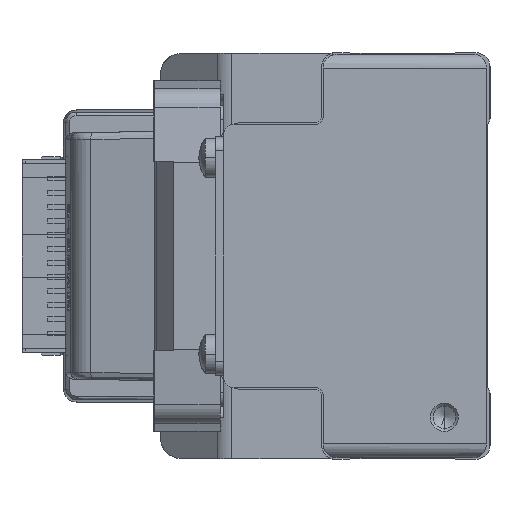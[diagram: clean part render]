
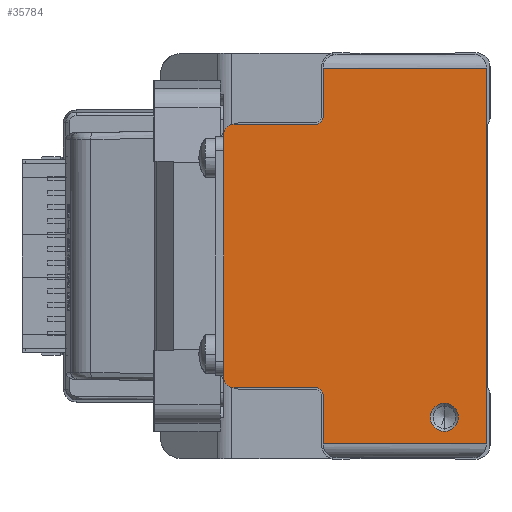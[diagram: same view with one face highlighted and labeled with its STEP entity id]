
A CAD part, left-side view. The second image highlights one B-rep face of the part: STEP entity #35784.
In plain terms, the highlighted planar face has unit normal (-1, 0, 0) as drawn and (0, 0, 1) by its records, which use the part's own axes.
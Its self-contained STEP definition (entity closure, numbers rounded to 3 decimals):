
#277 = PLANE ( 'NONE',  #14329 ) ;
#304 = CARTESIAN_POINT ( 'NONE',  ( -19.8, 23.8, 820. ) ) ;
#424 = CARTESIAN_POINT ( 'NONE',  ( -17.3, 38., 820. ) ) ;
#500 = CARTESIAN_POINT ( 'NONE',  ( -26.8, 23.8, 820. ) ) ;
#663 = EDGE_CURVE ( 'NONE', #10963, #27898, #27342, .T. ) ;
#1266 = VERTEX_POINT ( 'NONE', #20977 ) ;
#1407 = DIRECTION ( 'NONE',  ( -1., 0., 0. ) ) ;
#2642 = DIRECTION ( 'NONE',  ( 1., 0., 0. ) ) ;
#2876 = CIRCLE ( 'NONE', #8560, 2. ) ;
#3194 = VECTOR ( 'NONE', #41416, 1000. ) ;
#4542 = DIRECTION ( 'NONE',  ( 1., 0., 0. ) ) ;
#5581 = CARTESIAN_POINT ( 'NONE',  ( -21., 6.5, 820. ) ) ;
#5797 = CARTESIAN_POINT ( 'NONE',  ( 26.8, 0.5, 820. ) ) ;
#6415 = DIRECTION ( 'NONE',  ( 0., 0., 1. ) ) ;
#6756 = EDGE_LOOP ( 'NONE', ( #25013, #26502 ) ) ;
#6918 = CIRCLE ( 'NONE', #12657, 1. ) ;
#7649 = LINE ( 'NONE', #40967, #9709 ) ;
#7830 = VERTEX_POINT ( 'NONE', #5797 ) ;
#8187 = AXIS2_PLACEMENT_3D ( 'NONE', #10144, #13275, #23958 ) ;
#8194 = EDGE_CURVE ( 'NONE', #39193, #13332, #6918, .T. ) ;
#8560 = AXIS2_PLACEMENT_3D ( 'NONE', #15575, #15805, #16027 ) ;
#8866 = DIRECTION ( 'NONE',  ( 0., 0., -1. ) ) ;
#9217 = EDGE_CURVE ( 'NONE', #39193, #11218, #27636, .T. ) ;
#9709 = VECTOR ( 'NONE', #24634, 1000. ) ;
#9765 = DIRECTION ( 'NONE',  ( -1., 0., 0. ) ) ;
#10112 = ORIENTED_EDGE ( 'NONE', *, *, #22639, .F. ) ;
#10144 = CARTESIAN_POINT ( 'NONE',  ( 17.3, 36.5, 820. ) ) ;
#10381 = EDGE_CURVE ( 'NONE', #21844, #1266, #17497, .T. ) ;
#10467 = DIRECTION ( 'NONE',  ( 0., -1., 0. ) ) ;
#10723 = DIRECTION ( 'NONE',  ( 0., 0., 1. ) ) ;
#10888 = CARTESIAN_POINT ( 'NONE',  ( 18.8, 24.8, 820. ) ) ;
#10963 = VERTEX_POINT ( 'NONE', #17479 ) ;
#11218 = VERTEX_POINT ( 'NONE', #42957 ) ;
#12657 = AXIS2_PLACEMENT_3D ( 'NONE', #26755, #6415, #2642 ) ;
#12986 = ORIENTED_EDGE ( 'NONE', *, *, #14524, .T. ) ;
#13275 = DIRECTION ( 'NONE',  ( 0., 0., 1. ) ) ;
#13332 = VERTEX_POINT ( 'NONE', #36125 ) ;
#13474 = EDGE_LOOP ( 'NONE', ( #37100, #38413, #32048, #33374, #25268, #10112, #12986, #29792, #28179, #23756, #20392, #40860 ) ) ;
#14329 = AXIS2_PLACEMENT_3D ( 'NONE', #34450, #35096, #4542 ) ;
#14417 = VECTOR ( 'NONE', #36926, 1000. ) ;
#14524 = EDGE_CURVE ( 'NONE', #30838, #13332, #24430, .T. ) ;
#14875 = AXIS2_PLACEMENT_3D ( 'NONE', #39428, #32275, #15092 ) ;
#15092 = DIRECTION ( 'NONE',  ( 1., 0., 0. ) ) ;
#15575 = CARTESIAN_POINT ( 'NONE',  ( -23., 6.5, 820. ) ) ;
#15622 = LINE ( 'NONE', #26155, #18392 ) ;
#15805 = DIRECTION ( 'NONE',  ( 0., 0., -1. ) ) ;
#16027 = DIRECTION ( 'NONE',  ( -1., 0., 0. ) ) ;
#16982 = EDGE_CURVE ( 'NONE', #10963, #43594, #22694, .T. ) ;
#17235 = FACE_BOUND ( 'NONE', #6756, .T. ) ;
#17345 = DIRECTION ( 'NONE',  ( 0., 1., 0. ) ) ;
#17413 = CARTESIAN_POINT ( 'NONE',  ( -17.3, 36.5, 820. ) ) ;
#17479 = CARTESIAN_POINT ( 'NONE',  ( -19.8, 23.8, 820. ) ) ;
#17497 = CIRCLE ( 'NONE', #38908, 1.5 ) ;
#18072 = CARTESIAN_POINT ( 'NONE',  ( -25., 6.5, 820. ) ) ;
#18217 = VERTEX_POINT ( 'NONE', #18072 ) ;
#18392 = VECTOR ( 'NONE', #36410, 1000. ) ;
#19680 = LINE ( 'NONE', #32666, #14417 ) ;
#19850 = EDGE_CURVE ( 'NONE', #22485, #7830, #7649, .T. ) ;
#20392 = ORIENTED_EDGE ( 'NONE', *, *, #28186, .T. ) ;
#20977 = CARTESIAN_POINT ( 'NONE',  ( -18.8, 36.5, 820. ) ) ;
#21056 = CARTESIAN_POINT ( 'NONE',  ( 26.8, 23.8, 820. ) ) ;
#21279 = CARTESIAN_POINT ( 'NONE',  ( -26.8, 24., 820. ) ) ;
#21844 = VERTEX_POINT ( 'NONE', #424 ) ;
#22485 = VERTEX_POINT ( 'NONE', #37850 ) ;
#22639 = EDGE_CURVE ( 'NONE', #30838, #7830, #19680, .T. ) ;
#22694 = CIRCLE ( 'NONE', #14875, 1. ) ;
#23756 = ORIENTED_EDGE ( 'NONE', *, *, #25116, .T. ) ;
#23958 = DIRECTION ( 'NONE',  ( 1., 0., 0. ) ) ;
#24171 = VERTEX_POINT ( 'NONE', #5581 ) ;
#24430 = LINE ( 'NONE', #21056, #31348 ) ;
#24634 = DIRECTION ( 'NONE',  ( 1., 0., 0. ) ) ;
#25013 = ORIENTED_EDGE ( 'NONE', *, *, #40438, .T. ) ;
#25116 = EDGE_CURVE ( 'NONE', #11218, #33445, #42471, .T. ) ;
#25268 = ORIENTED_EDGE ( 'NONE', *, *, #19850, .T. ) ;
#25826 = CARTESIAN_POINT ( 'NONE',  ( -23., 6.5, 820. ) ) ;
#25910 = VECTOR ( 'NONE', #17345, 1000. ) ;
#26155 = CARTESIAN_POINT ( 'NONE',  ( 17.3, 38., 820. ) ) ;
#26502 = ORIENTED_EDGE ( 'NONE', *, *, #29262, .T. ) ;
#26755 = CARTESIAN_POINT ( 'NONE',  ( 19.8, 24.8, 820. ) ) ;
#27201 = LINE ( 'NONE', #40830, #39965 ) ;
#27342 = LINE ( 'NONE', #304, #3194 ) ;
#27636 = LINE ( 'NONE', #10888, #25910 ) ;
#27898 = VERTEX_POINT ( 'NONE', #500 ) ;
#28179 = ORIENTED_EDGE ( 'NONE', *, *, #9217, .T. ) ;
#28186 = EDGE_CURVE ( 'NONE', #33445, #21844, #15622, .T. ) ;
#29262 = EDGE_CURVE ( 'NONE', #24171, #18217, #2876, .T. ) ;
#29792 = ORIENTED_EDGE ( 'NONE', *, *, #8194, .F. ) ;
#30162 = EDGE_CURVE ( 'NONE', #1266, #43594, #27201, .T. ) ;
#30180 = CARTESIAN_POINT ( 'NONE',  ( 17.3, 38., 820. ) ) ;
#30740 = AXIS2_PLACEMENT_3D ( 'NONE', #25826, #8866, #9765 ) ;
#30838 = VERTEX_POINT ( 'NONE', #38301 ) ;
#31348 = VECTOR ( 'NONE', #1407, 1000. ) ;
#31579 = VECTOR ( 'NONE', #34929, 1000. ) ;
#32048 = ORIENTED_EDGE ( 'NONE', *, *, #663, .T. ) ;
#32275 = DIRECTION ( 'NONE',  ( 0., 0., 1. ) ) ;
#32666 = CARTESIAN_POINT ( 'NONE',  ( 26.8, 24., 820. ) ) ;
#32765 = CARTESIAN_POINT ( 'NONE',  ( -18.8, 24.8, 820. ) ) ;
#33374 = ORIENTED_EDGE ( 'NONE', *, *, #41288, .T. ) ;
#33445 = VERTEX_POINT ( 'NONE', #30180 ) ;
#34320 = CIRCLE ( 'NONE', #30740, 2. ) ;
#34450 = CARTESIAN_POINT ( 'NONE',  ( -26.8, 21.8, 820. ) ) ;
#34929 = DIRECTION ( 'NONE',  ( 0., -1., 0. ) ) ;
#35096 = DIRECTION ( 'NONE',  ( 0., 0., 1. ) ) ;
#35784 = ADVANCED_FACE ( 'NONE', ( #17235, #38474 ), #277, .T. ) ;
#36125 = CARTESIAN_POINT ( 'NONE',  ( 19.8, 23.8, 820. ) ) ;
#36410 = DIRECTION ( 'NONE',  ( -1., 0., 0. ) ) ;
#36926 = DIRECTION ( 'NONE',  ( 0., -1., 0. ) ) ;
#37100 = ORIENTED_EDGE ( 'NONE', *, *, #30162, .T. ) ;
#37850 = CARTESIAN_POINT ( 'NONE',  ( -26.8, 0.5, 820. ) ) ;
#38207 = DIRECTION ( 'NONE',  ( 1., 0., 0. ) ) ;
#38301 = CARTESIAN_POINT ( 'NONE',  ( 26.8, 23.8, 820. ) ) ;
#38309 = LINE ( 'NONE', #21279, #31579 ) ;
#38413 = ORIENTED_EDGE ( 'NONE', *, *, #16982, .F. ) ;
#38474 = FACE_OUTER_BOUND ( 'NONE', #13474, .T. ) ;
#38908 = AXIS2_PLACEMENT_3D ( 'NONE', #17413, #10723, #38207 ) ;
#39193 = VERTEX_POINT ( 'NONE', #40167 ) ;
#39428 = CARTESIAN_POINT ( 'NONE',  ( -19.8, 24.8, 820. ) ) ;
#39965 = VECTOR ( 'NONE', #10467, 1000. ) ;
#40167 = CARTESIAN_POINT ( 'NONE',  ( 18.8, 24.8, 820. ) ) ;
#40438 = EDGE_CURVE ( 'NONE', #18217, #24171, #34320, .T. ) ;
#40830 = CARTESIAN_POINT ( 'NONE',  ( -18.8, 36.5, 820. ) ) ;
#40860 = ORIENTED_EDGE ( 'NONE', *, *, #10381, .T. ) ;
#40967 = CARTESIAN_POINT ( 'NONE',  ( -26.8, 0.5, 820. ) ) ;
#41288 = EDGE_CURVE ( 'NONE', #27898, #22485, #38309, .T. ) ;
#41416 = DIRECTION ( 'NONE',  ( -1., 0., 0. ) ) ;
#42471 = CIRCLE ( 'NONE', #8187, 1.5 ) ;
#42957 = CARTESIAN_POINT ( 'NONE',  ( 18.8, 36.5, 820. ) ) ;
#43594 = VERTEX_POINT ( 'NONE', #32765 ) ;
